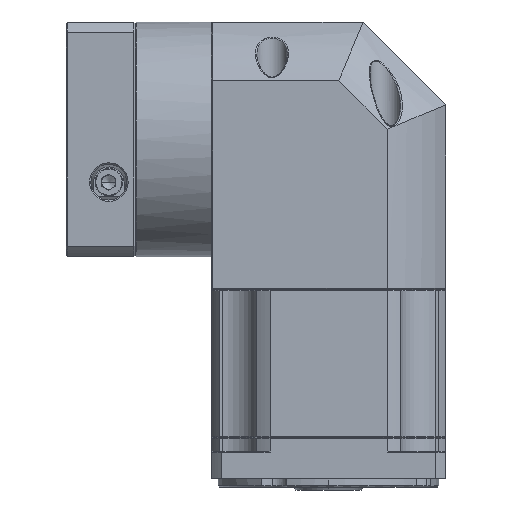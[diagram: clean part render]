
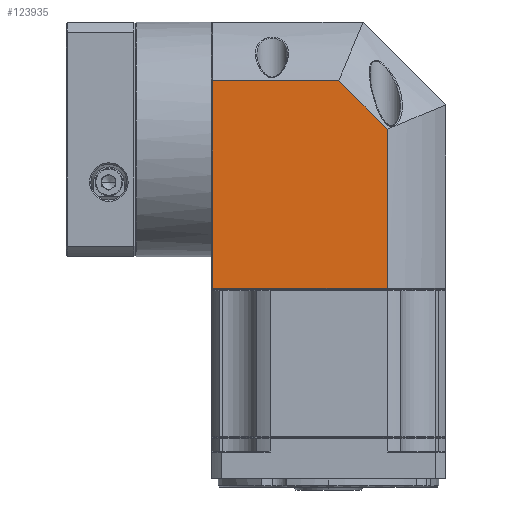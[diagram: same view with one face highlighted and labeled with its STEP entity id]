
A CAD part, left-side view. The second image highlights one B-rep face of the part: STEP entity #123935.
In plain terms, the highlighted planar face has unit normal (-1, 0, 0).
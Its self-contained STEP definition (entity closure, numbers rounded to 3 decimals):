
#800 = DIRECTION ( 'NONE',  ( 0., -1., 0. ) ) ;
#1548 = LINE ( 'NONE', #85133, #77122 ) ;
#3164 = CARTESIAN_POINT ( 'NONE',  ( -87.975, 9.033, 54.311 ) ) ;
#7584 = CARTESIAN_POINT ( 'NONE',  ( -87.975, 26.563, 29.524 ) ) ;
#11161 = DIRECTION ( 'NONE',  ( 0., -1., 0. ) ) ;
#13450 = CARTESIAN_POINT ( 'NONE',  ( -87.975, 72.246, -45.689 ) ) ;
#13559 = AXIS2_PLACEMENT_3D ( 'NONE', #127784, #66189, #107510 ) ;
#13706 = VERTEX_POINT ( 'NONE', #35459 ) ;
#14430 = DIRECTION ( 'NONE',  ( 0., 0., -1. ) ) ;
#16193 = VERTEX_POINT ( 'NONE', #104304 ) ;
#16869 = EDGE_CURVE ( 'NONE', #49784, #16193, #33795, .T. ) ;
#17992 = CARTESIAN_POINT ( 'NONE',  ( -87.975, 72.746, 29.524 ) ) ;
#21008 = CARTESIAN_POINT ( 'NONE',  ( -87.975, 72.746, -45.689 ) ) ;
#23469 = DIRECTION ( 'NONE',  ( 0., 0., 1. ) ) ;
#25160 = ORIENTED_EDGE ( 'NONE', *, *, #26087, .F. ) ;
#25267 = ORIENTED_EDGE ( 'NONE', *, *, #16869, .F. ) ;
#26087 = EDGE_CURVE ( 'NONE', #13706, #49784, #81615, .T. ) ;
#27682 = DIRECTION ( 'NONE',  ( 0., -0.707, -0.707 ) ) ;
#33795 = LINE ( 'NONE', #7584, #85405 ) ;
#35459 = CARTESIAN_POINT ( 'NONE',  ( -87.975, 72.246, 29.524 ) ) ;
#40502 = VERTEX_POINT ( 'NONE', #13450 ) ;
#48770 = FACE_OUTER_BOUND ( 'NONE', #120069, .T. ) ;
#49784 = VERTEX_POINT ( 'NONE', #110862 ) ;
#55720 = PLANE ( 'NONE',  #13559 ) ;
#64058 = EDGE_CURVE ( 'NONE', #40502, #105243, #69955, .T. ) ;
#66189 = DIRECTION ( 'NONE',  ( 1., 0., 0. ) ) ;
#69904 = ORIENTED_EDGE ( 'NONE', *, *, #64058, .T. ) ;
#69955 = LINE ( 'NONE', #21008, #78055 ) ;
#70400 = VECTOR ( 'NONE', #800, 1000. ) ;
#77122 = VECTOR ( 'NONE', #23469, 1000. ) ;
#78055 = VECTOR ( 'NONE', #11161, 1000. ) ;
#81615 = LINE ( 'NONE', #17992, #70400 ) ;
#83228 = VECTOR ( 'NONE', #14430, 1000. ) ;
#85133 = CARTESIAN_POINT ( 'NONE',  ( -87.975, 72.246, 50.811 ) ) ;
#85405 = VECTOR ( 'NONE', #27682, 1000. ) ;
#94733 = ORIENTED_EDGE ( 'NONE', *, *, #100883, .F. ) ;
#100883 = EDGE_CURVE ( 'NONE', #40502, #13706, #1548, .T. ) ;
#100889 = ORIENTED_EDGE ( 'NONE', *, *, #125691, .F. ) ;
#104304 = CARTESIAN_POINT ( 'NONE',  ( -87.975, 9.033, 11.994 ) ) ;
#105243 = VERTEX_POINT ( 'NONE', #121994 ) ;
#105727 = LINE ( 'NONE', #3164, #83228 ) ;
#107510 = DIRECTION ( 'NONE',  ( 0., 1., 0. ) ) ;
#110862 = CARTESIAN_POINT ( 'NONE',  ( -87.975, 26.563, 29.524 ) ) ;
#120069 = EDGE_LOOP ( 'NONE', ( #69904, #100889, #25267, #25160, #94733 ) ) ;
#121994 = CARTESIAN_POINT ( 'NONE',  ( -87.975, 9.033, -45.689 ) ) ;
#123935 = ADVANCED_FACE ( 'NONE', ( #48770 ), #55720, .F. ) ;
#125691 = EDGE_CURVE ( 'NONE', #16193, #105243, #105727, .T. ) ;
#127784 = CARTESIAN_POINT ( 'NONE',  ( -87.975, 72.746, 50.811 ) ) ;
